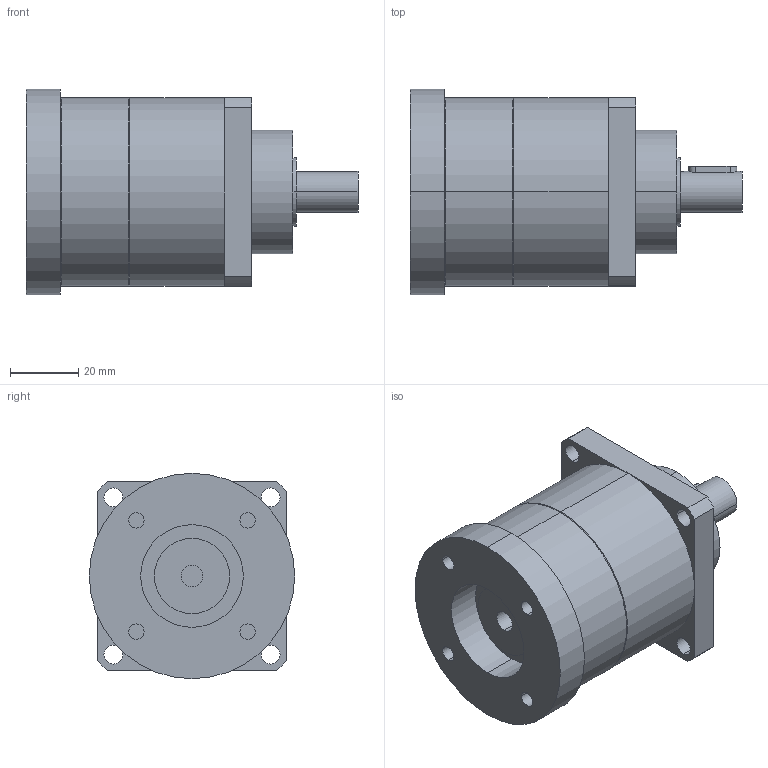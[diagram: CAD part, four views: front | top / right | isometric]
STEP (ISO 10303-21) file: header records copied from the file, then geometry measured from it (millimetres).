
FILE_DESCRIPTION(('CoCreate Modeling STEP Export'),'2;1');
FILE_NAME('GPT55_ig-3-4-5-7-10_12_B5A_6.35_P21.stp','2014-08-25T14:32:13',(''),(''),'CoCreate Modeling STEP processor for AP214 (Solid Model)','CoCreate Modeling 16.00C 25-Feb-2009 (C) Parametric Technology GmbH','');
FILE_SCHEMA(('AUTOMOTIVE_DESIGN { 1 0 10303 214 1 1 1 1 }'));
Length unit declared in the file: millimetre
Products named in the file (2): GPT55_ig-3-4-5-7-10_12_B5A_6.35_P21
Assembly tree (1 placements, depth 2):
  GPT55_ig-3-4-5-7-10_12_B5A_6.35_P21
    GPT55_ig-3-4-5-7-10_12_B5A_6.35_P21
Bounding box: 97 x 60 x 60 mm (x, y, z)
Volume: 172852.4 mm3; surface area: 23774.8 mm2
Topology: 1 solids, 1 shells, 72 faces, 180 edges, 123 vertices
Faces by surface type: cylinder 42, plane 26, cone 4
Entity records: 2237 total; most frequent: CARTESIAN_POINT 661, ORIENTED_EDGE 360, DIRECTION 268, EDGE_CURVE 180, VERTEX_POINT 123, AXIS2_PLACEMENT_3D 100, EDGE_LOOP 93, FACE_OUTER_BOUND 72
